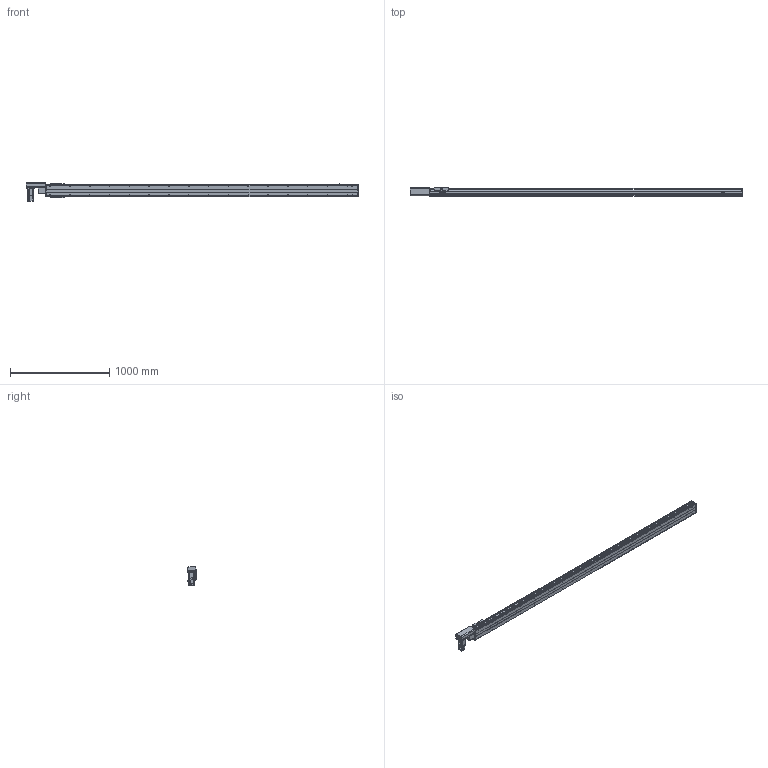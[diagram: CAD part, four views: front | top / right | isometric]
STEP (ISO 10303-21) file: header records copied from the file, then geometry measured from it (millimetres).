
FILE_DESCRIPTION( ( 'STEP AP214' ), '1' );
FILE_NAME( 'x:/temp/worker_27/temp/exporttempdir_6708_32_1ynDo/format_0/PBS120-P40-S2850-R-T40-C1-N(0).stp', '2022-06-06T00:11:21', ( 'License CC BY-ND 4.0' ), ( 'CADENAS' ), ' ', 'PARTsolutions', ' ' );
FILE_SCHEMA( ( 'AUTOMOTIVE_DESIGN { 1 0 10303 214 1 1 1 1 }' ) );
Length unit declared in the file: millimetre
Products named in the file (7): PBS120-P40-S2850-R-T40-C1-N(0); _PBS120-S2850()_body; _PBS120T-R_motors; _T40-p1; _PBS120_sliser; _PBS120_plant; _PBS120_sensor
Assembly tree (8 placements, depth 2):
  PBS120-P40-S2850-R-T40-C1-N(0)
    _PBS120-S2850()_body
    _PBS120T-R_motors
    _T40-p1
    _PBS120_sliser
    _PBS120_plant
    _PBS120_sensor  x3
Bounding box: 3351 x 83 x 189.7 mm (x, y, z)
Volume: 11982745.2 mm3; surface area: 2492505.5 mm2
Topology: 8 solids, 8 shells, 882 faces, 2246 edges, 1441 vertices
Faces by surface type: plane 567, cylinder 247, cone 66, torus 2
Full cylindrical faces by diameter (mm): 2.459 x6, 3.242 x4, 4 x2, 4.134 x4, 4.5 x10, 4.917 x38, 5.5 x11, 6 x2, 6.6 x1, 7 x2, 8.5 x4, 9 x4, 12 x1, 14 x1, 30 x2, 40 x1, 50 x2
Entity records: 28836 total; most frequent: DIRECTION 3956, CARTESIAN_POINT 3839, ORIENTED_EDGE 3610, EDGE_CURVE 1805, AXIS2_PLACEMENT_3D 1364, VERTEX_POINT 1247, LINE 1228, VECTOR 1228
